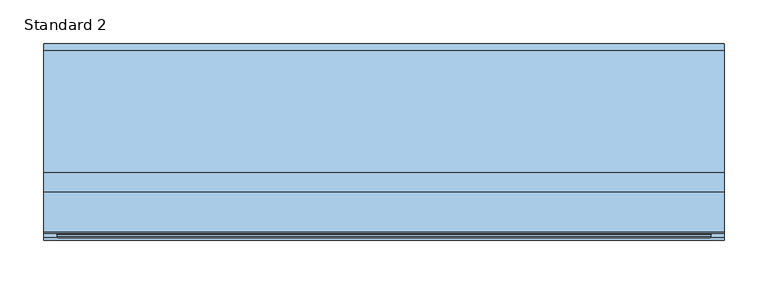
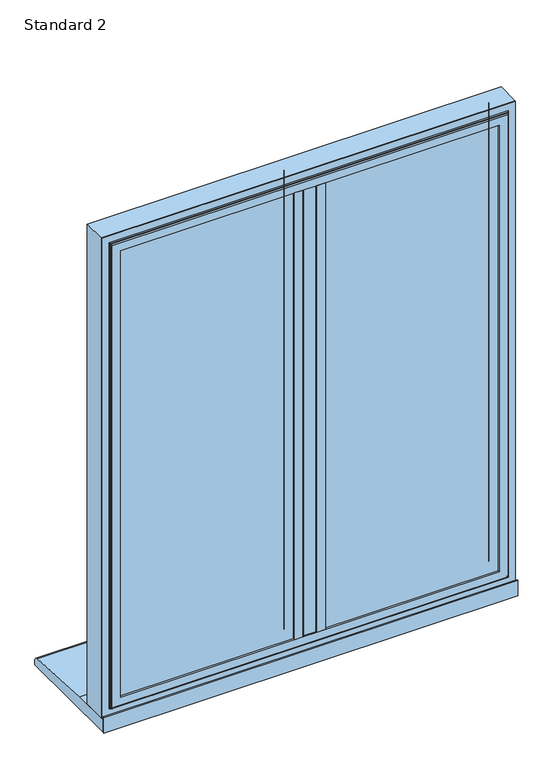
"""IFC4 building model written with IfcOpenShell, lengths in millimetres: window geometry, SMARTS_AlithermHeritage : Standard 2."""

from ifc_helpers import new_model, si_unit, point, frame, frame_2d, origin, place, context, project, spatial, polyline, circle_curve, ellipse_curve, trimmed, segment, composite_curve, outline, extrude, faceted_brep, source, transform, mapped, element, save
from ifc_brep_helpers import plane_surface, cylinder_surface, revolved_surface, advanced_brep


def standard_2_2931db33(model_context):
    return source(origin(), model_context, "Body", "SolidModel", [
        extrude(outline(polyline([(-13.6941456, 95.2798432), (13.6941456, 95.2798432), (13.6941456, 47.279476), (-13.6941456, 47.279476), (-13.6941456, 95.2798432)])), frame((0.0, 0.0, 652.6941456), z_axis=(0.0, 0.0, 1.0), x_axis=(1.0, 0.0, 0.0)), (0.0, 0.0, 1.0), 919.6117089),
        extrude(outline(composite_curve([segment(polyline([(-29.0, 47.279476), (29.0, 47.279476), (29.0, 43.2798432), (13.0, 43.2798432)]), True, "CONTINUOUS"), segment(trimmed(circle_curve(frame_2d((13.0, 44.2798432)), 1.0), [point((13.0, 43.2798432))], [point((12.0, 44.2798432))], False, "CARTESIAN"), True, "CONTINUOUS"), segment(polyline([(12.0, 44.2798432), (12.0, 45.7798432), (-12.0, 45.7798432), (-12.0, 44.2798432)]), True, "CONTINUOUS"), segment(trimmed(circle_curve(frame_2d((-13.0, 44.2798432)), 1.0), [point((-12.0, 44.2798432))], [point((-13.0, 43.2798432))], False, "CARTESIAN"), True, "CONTINUOUS"), segment(polyline([(-13.0, 43.2798432), (-29.0, 43.2798432), (-29.0, 47.279476)]), True, "CONTINUOUS")], self_intersect=False)), frame((0.0, 0.0, 668.0), z_axis=(0.0, 0.0, 1.0), x_axis=(1.0, 0.0, 0.0)), (0.0, 0.0, 1.0), 889.0),
        extrude(outline(polyline([(-367.0, 75.2798432), (-19.0, 75.2798432), (-19.0, 71.2798432), (-367.0, 71.2798432), (-367.0, 75.2798432)])), frame((0.0, 0.0, 658.0), z_axis=(0.0, 0.0, 1.0), x_axis=(1.0, 0.0, 0.0)), (0.0, 0.0, 1.0), 909.0),
        extrude(outline(polyline([(-367.0, 55.2798432), (-19.0, 55.2798432), (-19.0, 51.2798432), (-367.0, 51.2798432), (-367.0, 55.2798432)])), frame((0.0, 0.0, 658.0), z_axis=(0.0, 0.0, 1.0), x_axis=(1.0, 0.0, 0.0)), (0.0, 0.0, 1.0), 909.0),
        extrude(outline(polyline([(1567.0, -367.0), (658.0, -367.0), (658.0, -19.0), (1567.0, -19.0), (1567.0, -367.0)]), holes=[polyline([(1557.0, -29.0), (668.0, -29.0), (668.0, -357.0), (1557.0, -357.0), (1557.0, -29.0)])]), frame((0.0, 55.2798432, 0.0), z_axis=(0.0, 1.0, 0.0), x_axis=(0.0, 0.0, 1.0)), (0.0, 0.0, 1.0), 16.0),
        faceted_brep([(-19.1851151, 95.2798432, 1566.8148849), (-29.0, 78.2798098, 1557.0), (-357.0, 78.2798098, 1557.0), (-366.8148849, 95.2798432, 1566.8148849), (-13.6297324, 78.2798098, 1572.3702676), (-13.6297324, 95.2798432, 1572.3702676), (-372.3702676, 95.2798432, 1572.3702676), (-372.3702676, 78.2798098, 1572.3702676), (-372.3702676, 78.2798098, 652.6297324), (-372.3702676, 95.2798432, 652.6297324), (-13.6297324, 95.2798432, 652.6297324), (-13.6297324, 78.2798098, 652.6297324), (-366.8148849, 95.2798432, 658.1851151), (-19.1851151, 95.2798432, 658.1851151), (-29.0, 78.2798098, 668.0), (-357.0, 78.2798098, 668.0)], [[[0, 1, 2, 3]], [[4, 5, 6, 7]], [[8, 9, 10, 11]], [[5, 10, 9, 6], [3, 12, 13, 0]], [[7, 8, 11, 4], [1, 14, 15, 2]], [[3, 2, 15, 12]], [[7, 6, 9, 8]], [[12, 15, 14, 13]], [[13, 14, 1, 0]], [[11, 10, 5, 4]]]),
        extrude(outline(polyline([(1590.0, 390.0), (1590.0, -390.0), (635.0, -390.0), (635.0, 390.0), (1590.0, 390.0)]), holes=[polyline([(652.7000182, 372.2999818), (652.7000182, -372.2999818), (1572.2999818, -372.2999818), (1572.2999818, 372.2999818), (652.7000182, 372.2999818)])]), frame((0.0, 50.279857, 0.0), z_axis=(0.0, 1.0, 0.0), x_axis=(0.0, 0.0, 1.0)), (0.0, 0.0, 1.0), 44.9999962),
        advanced_brep(
        [(357.0, 43.2798432, 1557.0), (357.0, 47.2798432, 1557.0), (357.0, 47.2798432, 668.0), (357.0, 43.2798432, 668.0), (390.0, 50.279857, 1590.0), (390.0, 48.279857, 1590.0), (390.0, 48.279857, 635.0), (390.0, 50.279857, 635.0), (372.4999818, 43.2798432, 1572.4999818), (-372.4999818, 43.2798432, 1572.4999818), (-372.4999818, 43.2798432, 652.5000182), (372.4999818, 43.2798432, 652.5000182), (-357.0, 43.2798432, 668.0), (-357.0, 43.2798432, 1557.0), (-390.0, 50.279857, 1590.0), (-390.0, 48.279857, 1590.0), (-390.0, 50.279857, 635.0), (372.2999818, 50.279857, 1572.2999818), (-372.2999818, 50.279857, 1572.2999818), (-372.2999818, 50.279857, 652.7000182), (372.2999818, 50.279857, 652.7000182), (-357.0, 47.2798432, 1557.0), (-357.0, 47.2798432, 668.0), (-390.0, 48.279857, 635.0), (-372.2999818, 47.2798432, 1572.2999818), (372.2999818, 47.2798432, 1572.2999818), (372.2999818, 47.2798432, 652.7000182), (374.4999818, 46.779857, 650.5000182), (374.4999818, 45.2798432, 650.5000182), (-374.4999818, 45.2798432, 650.5000182), (-374.4999818, 46.779857, 650.5000182), (374.4999818, 46.779857, 1574.4999818), (374.4999818, 45.2798432, 1574.4999818), (-372.2999818, 47.2798432, 652.7000182), (-374.4999818, 45.2798432, 1574.4999818), (-374.4999818, 46.779857, 1574.4999818), (375.9999818, 48.279857, 1575.9999818), (375.9999818, 48.279857, 649.0000182), (-375.9999818, 48.279857, 649.0000182), (-375.9999818, 48.279857, 1575.9999818)],
        [
            (0, 1),
            (1, 2),
            (2, 3),
            (3, 0),
            (4, 5),
            (5, 6),
            (6, 7),
            (7, 4),
            (8, 9),
            (9, 10),
            (10, 11),
            (11, 8),
            (3, 12),
            (12, 13),
            (13, 0),
            (14, 15),
            (15, 5),
            (4, 14),
            (7, 16),
            (16, 14),
            (17, 18),
            (18, 19),
            (19, 20),
            (20, 17),
            (13, 21),
            (21, 1),
            (2, 22),
            (22, 12),
            (22, 21),
            (6, 23),
            (23, 16),
            (23, 15),
            (24, 18),
            (17, 25),
            (25, 24),
            (20, 26),
            (26, 25),
            (27, 28),
            (28, 29),
            (29, 30),
            (30, 27),
            (31, 32),
            (32, 28),
            (27, 31),
            (19, 33),
            (33, 26),
            (24, 33),
            (29, 34),
            (34, 35),
            (35, 30),
            (34, 32),
            (31, 35),
            (36, 31, ellipse_curve(frame((375.9999818, 46.779857, 1575.9999818), z_axis=(-0.7071067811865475, 0.0, 0.7071067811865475), x_axis=(-0.7071067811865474, 0.0, -0.7071067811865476)), 2.1213203, 1.5)),
            (27, 37, ellipse_curve(frame((375.9999818, 46.779857, 649.0000182), z_axis=(-0.7071067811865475, 0.0, -0.7071067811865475), x_axis=(0.7071067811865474, 0.0, -0.7071067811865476)), 2.1213203, 1.5)),
            (37, 36),
            (30, 38, ellipse_curve(frame((-375.9999818, 46.779857, 649.0000182), z_axis=(-0.7071067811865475, 0.0, 0.7071067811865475), x_axis=(-0.7071067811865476, 0.0, -0.7071067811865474)), 2.1213203, 1.5)),
            (38, 37),
            (35, 39, ellipse_curve(frame((-375.9999818, 46.779857, 1575.9999818), z_axis=(0.7071067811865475, 0.0, 0.7071067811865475), x_axis=(-0.7071067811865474, 0.0, 0.7071067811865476)), 2.1213203, 1.5)),
            (39, 38),
            (36, 39),
            (32, 8, ellipse_curve(frame((372.4999818, 45.2798432, 1572.4999818), z_axis=(0.7071067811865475, 0.0, -0.7071067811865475), x_axis=(0.7071067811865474, 0.0, 0.7071067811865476)), 2.8284271, 2.0)),
            (11, 28, ellipse_curve(frame((372.4999818, 45.2798432, 652.5000182), z_axis=(0.7071067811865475, 0.0, 0.7071067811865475), x_axis=(-0.7071067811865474, 0.0, 0.7071067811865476)), 2.8284271, 2.0)),
            (10, 29, ellipse_curve(frame((-372.4999818, 45.2798432, 652.5000182), z_axis=(0.7071067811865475, 0.0, -0.7071067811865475), x_axis=(0.7071067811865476, 0.0, 0.7071067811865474)), 2.8284271, 2.0)),
            (9, 34, ellipse_curve(frame((-372.4999818, 45.2798432, 1572.4999818), z_axis=(-0.7071067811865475, 0.0, -0.7071067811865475), x_axis=(0.7071067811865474, 0.0, -0.7071067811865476)), 2.8284271, 2.0)),
        ],
        [
            plane_surface(frame((357.0, 47.2798432, 1557.0), z_axis=(-1.0, 0.0, 0.0), x_axis=(0.0, 0.0, -1.0))),
            plane_surface(frame((390.0, 48.279857, 1590.0), z_axis=(1.0, 0.0, 0.0), x_axis=(0.0, 0.0, -1.0))),
            plane_surface(frame((-357.0, 43.2798432, 1557.0), z_axis=(0.0, -1.0, 0.0), x_axis=(1.0, 0.0, 0.0))),
            plane_surface(frame((-390.0, 48.279857, 1590.0), z_axis=(0.0, 0.0, 1.0), x_axis=(1.0, 0.0, 0.0))),
            plane_surface(frame((-390.0, 50.279857, 1590.0), z_axis=(0.0, 1.0, 0.0), x_axis=(1.0, 0.0, 0.0))),
            plane_surface(frame((-357.0, 47.2798432, 1557.0), z_axis=(0.0, 0.0, -1.0), x_axis=(1.0, 0.0, 0.0))),
            plane_surface(frame((357.0, 47.2798432, 668.0), z_axis=(0.0, 0.0, 1.0), x_axis=(-1.0, 0.0, 0.0))),
            plane_surface(frame((-357.0, 47.2798432, 668.0), z_axis=(1.0, 0.0, 0.0), x_axis=(0.0, 0.0, 1.0))),
            plane_surface(frame((390.0, 48.279857, 635.0), z_axis=(0.0, 0.0, -1.0), x_axis=(-1.0, 0.0, 0.0))),
            plane_surface(frame((-390.0, 48.279857, 635.0), z_axis=(-1.0, 0.0, 0.0), x_axis=(0.0, 0.0, 1.0))),
            plane_surface(frame((-372.2999818, 50.279857, 1572.2999818), z_axis=(0.0, 0.0, -1.0), x_axis=(1.0, 0.0, 0.0))),
            plane_surface(frame((372.2999818, 50.279857, 1572.2999818), z_axis=(-1.0, 0.0, 0.0), x_axis=(0.0, 0.0, -1.0))),
            plane_surface(frame((374.4999818, 45.2798432, 650.5000182), z_axis=(0.0, 0.0, -1.0), x_axis=(-1.0, 0.0, 0.0))),
            plane_surface(frame((374.4999818, 45.2798432, 1574.4999818), z_axis=(1.0, 0.0, 0.0), x_axis=(0.0, 0.0, -1.0))),
            plane_surface(frame((372.2999818, 50.279857, 652.7000182), z_axis=(0.0, 0.0, 1.0), x_axis=(-1.0, 0.0, 0.0))),
            plane_surface(frame((-372.2999818, 50.279857, 652.7000182), z_axis=(1.0, 0.0, 0.0), x_axis=(0.0, 0.0, 1.0))),
            plane_surface(frame((-374.4999818, 45.2798432, 650.5000182), z_axis=(-1.0, 0.0, 0.0), x_axis=(0.0, 0.0, 1.0))),
            plane_surface(frame((-372.2999818, 47.2798432, 1572.2999818), z_axis=(0.0, 1.0, 0.0), x_axis=(1.0, 0.0, 0.0))),
            plane_surface(frame((-374.4999818, 45.2798432, 1574.4999818), z_axis=(0.0, 0.0, 1.0), x_axis=(1.0, 0.0, 0.0))),
            revolved_surface(polyline([(374.4999818, 46.779857, 647.5000182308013), (374.4999818, 46.779857, 1577.4999817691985)]), (375.9999818, 46.779857, 1590.0), (0.0, 0.0, -1.0)),
            revolved_surface(polyline([(-377.4999817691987, 46.779857, 650.5000182), (377.49998176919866, 46.779857, 650.5000182)]), (390.0, 46.779857, 649.0000182), (-1.0, 0.0, 0.0)),
            revolved_surface(polyline([(-374.4999818, 46.779857, 1577.4999817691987), (-374.4999818, 46.779857, 647.5000182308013)]), (-375.9999818, 46.779857, 635.0), (0.0, 0.0, 1.0)),
            revolved_surface(polyline([(377.4999817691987, 46.779857, 1574.4999818), (-377.49998176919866, 46.779857, 1574.4999818)]), (-390.0, 46.779857, 1575.9999818), (1.0, 0.0, 0.0)),
            plane_surface(frame((-375.9999818, 48.279857, 1575.9999818), z_axis=(0.0, -1.0, 0.0), x_axis=(1.0, 0.0, 0.0))),
            cylinder_surface(frame((372.4999818, 45.2798432, 1590.0), z_axis=(0.0, 0.0, 1.0), x_axis=(-1.0, 0.0, 0.0)), 2.0),
            cylinder_surface(frame((390.0, 45.2798432, 652.5000182), z_axis=(1.0, 0.0, 0.0), x_axis=(0.0, 0.0, 1.0)), 2.0),
            cylinder_surface(frame((-372.4999818, 45.2798432, 635.0), z_axis=(0.0, 0.0, -1.0), x_axis=(1.0, 0.0, 0.0)), 2.0),
            cylinder_surface(frame((-390.0, 45.2798432, 1572.4999818), z_axis=(-1.0, 0.0, 0.0), x_axis=(0.0, 0.0, -1.0)), 2.0),
        ],
        [
            (0, [[1, 2, 3, 4]]),
            (1, [[5, 6, 7, 8]]),
            (2, [[9, 10, 11, 12], [13, 14, 15, -4]]),
            (3, [[16, 17, -5, 18]]),
            (4, [[19, 20, -18, -8], [21, 22, 23, 24]]),
            (5, [[25, 26, -1, -15]]),
            (6, [[-3, 27, 28, -13]]),
            (7, [[-28, 29, -25, -14]]),
            (8, [[-7, 30, 31, -19]]),
            (9, [[-31, 32, -16, -20]]),
            (10, [[33, -21, 34, 35]]),
            (11, [[-34, -24, 36, 37]]),
            (12, [[38, 39, 40, 41]]),
            (13, [[42, 43, -38, 44]]),
            (14, [[-36, -23, 45, 46]]),
            (15, [[-45, -22, -33, 47]]),
            (16, [[-40, 48, 49, 50]]),
            (17, [[-46, -47, -35, -37], [-26, -29, -27, -2]]),
            (18, [[-49, 51, -42, 52]]),
            (19, [[53, -44, 54, 55]]),
            (20, [[-54, -41, 56, 57]]),
            (21, [[-56, -50, 58, 59]]),
            (22, [[-58, -52, -53, 60]]),
            (23, [[-17, -32, -30, -6], [-57, -59, -60, -55]]),
            (24, [[61, -12, 62, -43]]),
            (25, [[-62, -11, 63, -39]]),
            (26, [[-63, -10, 64, -48]]),
            (27, [[-64, -9, -61, -51]]),
        ],
    ),
        extrude(outline(polyline([(19.0, 75.2798432), (367.0, 75.2798432), (367.0, 71.2798432), (19.0, 71.2798432), (19.0, 75.2798432)])), frame((0.0, 0.0, 658.0), z_axis=(0.0, 0.0, 1.0), x_axis=(1.0, 0.0, 0.0)), (0.0, 0.0, 1.0), 909.0),
        extrude(outline(polyline([(19.0, 55.2798432), (367.0, 55.2798432), (367.0, 51.2798432), (19.0, 51.2798432), (19.0, 55.2798432)])), frame((0.0, 0.0, 658.0), z_axis=(0.0, 0.0, 1.0), x_axis=(1.0, 0.0, 0.0)), (0.0, 0.0, 1.0), 909.0),
        extrude(outline(polyline([(1567.0, 19.0), (658.0, 19.0), (658.0, 367.0), (1567.0, 367.0), (1567.0, 19.0)]), holes=[polyline([(1557.0, 357.0), (668.0, 357.0), (668.0, 29.0), (1557.0, 29.0), (1557.0, 357.0)])]), frame((0.0, 55.2798432, 0.0), z_axis=(0.0, 1.0, 0.0), x_axis=(0.0, 0.0, 1.0)), (0.0, 0.0, 1.0), 16.0),
        faceted_brep([(366.8148849, 95.2798432, 1566.8148849), (357.0, 78.2798098, 1557.0), (29.0, 78.2798098, 1557.0), (19.1851151, 95.2798432, 1566.8148849), (372.3702676, 78.2798098, 1572.3702676), (372.3702676, 95.2798432, 1572.3702676), (13.6297324, 95.2798432, 1572.3702676), (13.6297324, 78.2798098, 1572.3702676), (13.6297324, 78.2798098, 652.6297324), (13.6297324, 95.2798432, 652.6297324), (372.3702676, 95.2798432, 652.6297324), (372.3702676, 78.2798098, 652.6297324), (19.1851151, 95.2798432, 658.1851151), (366.8148849, 95.2798432, 658.1851151), (357.0, 78.2798098, 668.0), (29.0, 78.2798098, 668.0)], [[[0, 1, 2, 3]], [[4, 5, 6, 7]], [[8, 9, 10, 11]], [[5, 10, 9, 6], [3, 12, 13, 0]], [[7, 8, 11, 4], [1, 14, 15, 2]], [[3, 2, 15, 12]], [[7, 6, 9, 8]], [[12, 15, 14, 13]], [[13, 14, 1, 0]], [[11, 10, 5, 4]]]),
        extrude(outline(polyline([(390.0, 43.2798432), (390.0, 40.7798432), (-390.0, 40.7798432), (-390.0, 43.2798432), (390.0, 43.2798432)])), frame((0.0, 0.0, 610.0), z_axis=(0.0, 0.0, 1.0), x_axis=(1.0, 0.0, 0.0)), (0.0, 0.0, 1.0), 31.0),
        extrude(outline(composite_curve([segment(polyline([(265.7798432, 610.0), (43.2798432, 610.0), (43.2798432, 635.0), (118.7798432, 635.0), (258.4770891, 625.9276664)]), True, "CONTINUOUS"), segment(trimmed(circle_curve(frame_2d((257.7798432, 617.9581088)), 8.0), [point((258.4770891, 625.9276664))], [point((265.7798432, 617.9581088))], False, "CARTESIAN"), True, "CONTINUOUS"), segment(polyline([(265.7798432, 617.9581088), (265.7798432, 610.0)]), True, "CONTINUOUS")], self_intersect=False)), frame((-390.0, 0.0, 0.0), z_axis=(1.0, 0.0, 0.0), x_axis=(0.0, 1.0, 0.0)), (0.0, 0.0, 1.0), 780.0),
    ])


if __name__ == "__main__":
    model = new_model("IFC4")
    model_context = context("Model", 3, world=origin())
    ifc_project = project(units=[si_unit("LENGTHUNIT", "METRE", prefix="MILLI")], contexts=[model_context])
    site = spatial("IfcSite", under=ifc_project)
    building = spatial("IfcBuilding", under=site)
    placement = place(None, origin())
    standard_2_shape = standard_2_2931db33(model_context)
    element("IfcWindow", 1, ObjectType="SMARTS_AlithermHeritage : Standard 2", at=placement, inside=building, context=model_context, shape_type="MappedRepresentation", body=[
        mapped(standard_2_shape, transform((0.0, 0.0, 0.0), x_axis=(1.0, 0.0, 0.0), y_axis=(0.0, 1.0, 0.0), z_axis=(0.0, 0.0, 1.0))),
    ])
    save(model, "model.ifc")
